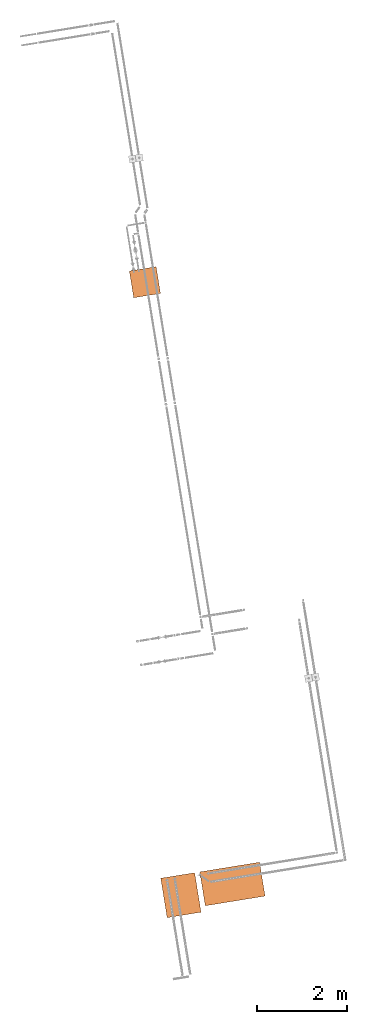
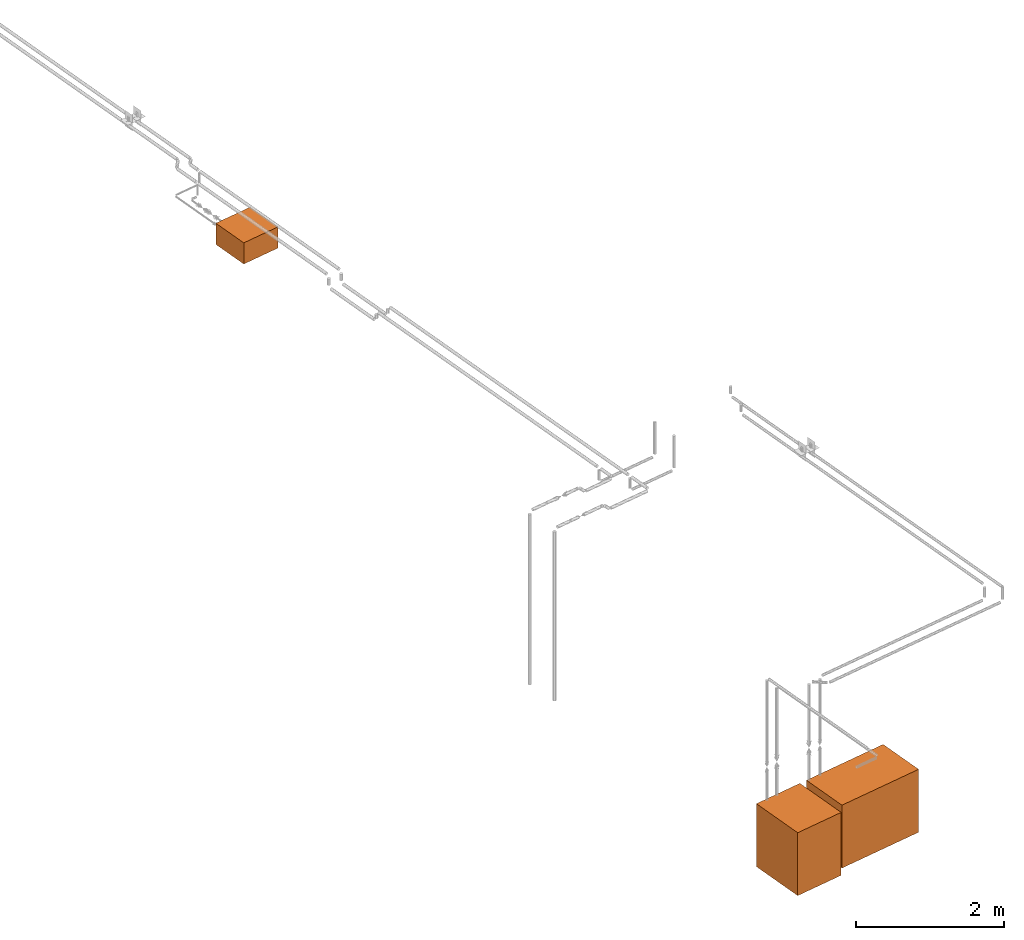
# One storey, part 10 of 10: 3 proxies.
"""IFC2X3 building model written with IfcOpenShell, lengths in millimetres."""

from ifc_helpers import new_model, entity, si_unit, converted_unit, derived_unit, direction, frame, origin, origin_with_axes, origin_2d_with_axis, place, context, subcontext, project, spatial, rectangle, extrude, source, transform, mapped, material, type_object, element, save


model = new_model("IFC2X3")

# Units and contexts
plan_context = context("Plan", 3, precision=1e-05, world=origin_with_axes())
model_context = context("Model", 3, precision=0.01, world=origin(), true_north=direction((6.12323399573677e-17, 1.0)))
body_context = subcontext(model_context, "Body", "Model", "MODEL_VIEW")
ifc_project = project(units=[converted_unit("PLANEANGLEUNIT", "DEGREE", entity("IfcPositiveLengthMeasure", 0.0174532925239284), si_unit("PLANEANGLEUNIT", "RADIAN"), dimensions=[0, 0, 0, 0, 0, 0, 0]), si_unit("AREAUNIT", "SQUARE_METRE"), si_unit("LENGTHUNIT", "METRE", prefix="MILLI"), si_unit("MASSUNIT", "GRAM", prefix="KILO"), si_unit("POWERUNIT", "WATT"), si_unit("PRESSUREUNIT", "PASCAL", prefix="KILO"), si_unit("FORCEUNIT", "NEWTON", prefix="KILO"), si_unit("ELECTRICVOLTAGEUNIT", "VOLT"), si_unit("ELECTRICCURRENTUNIT", "AMPERE"), si_unit("THERMODYNAMICTEMPERATUREUNIT", "DEGREE_CELSIUS"), si_unit("TIMEUNIT", "SECOND"), si_unit("VOLUMEUNIT", "CUBIC_METRE"), derived_unit("LINEARVELOCITYUNIT", [(si_unit("LENGTHUNIT", "METRE"), 1), (si_unit("TIMEUNIT", "SECOND"), -1)]), derived_unit("VOLUMETRICFLOWRATEUNIT", [(si_unit("VOLUMEUNIT", "CUBIC_METRE"), 1), (si_unit("TIMEUNIT", "SECOND"), -1)]), derived_unit("THERMALTRANSMITTANCEUNIT", [(si_unit("POWERUNIT", "WATT"), 1), (si_unit("THERMODYNAMICTEMPERATUREUNIT", "KELVIN"), -1), (si_unit("AREAUNIT", "SQUARE_METRE"), -1)]), derived_unit("SOUNDPRESSUREUNIT", [(si_unit("PRESSUREUNIT", "PASCAL"), 1)])], contexts=[model_context, plan_context])

# Site, building, storey
site_placement = place(None, frame((-0.00071070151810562, 0.00438415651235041, 0.0), z_axis=(0.0, 0.0, 1.0), x_axis=(-0.160236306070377, 0.987078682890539, 0.0)))
site = spatial("IfcSite", under=ifc_project, at=site_placement, Name="Default", CompositionType="ELEMENT")
building_placement = place(site_placement, origin_with_axes())
building = spatial("IfcBuilding", under=site, at=building_placement, CompositionType="ELEMENT")
storey_placement = place(building_placement, frame((0.0, 0.0, 58999.9999999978), z_axis=(0.0, 0.0, 1.0), x_axis=(1.0, 0.0, 0.0)))
storey = spatial("IfcBuildingStorey", under=building, at=storey_placement, Name="Nivå F", CompositionType="ELEMENT", Elevation=58999.9999999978)

# Proxies
ifc_material = material(Name="<Unnamed>")
building_element_proxy_type_1 = type_object("IfcBuildingElementProxyType", Name="FANCOIL--LC006T:FANCOIL--LC006T", PredefinedType="NOTDEFINED", material=ifc_material)
shared_shape_1 = source(origin(), body_context, "Body", "SweptSolid", [
    extrude(rectangle(XDim=600.0, YDim=600.0, at=origin_2d_with_axis()), frame((300.0, 300.0, 0.0), z_axis=(0.0, 0.0, 1.0), x_axis=(0.0, 1.0, 0.0)), (0.0, 0.0, 1.0), 350.0),
])
proxy_1_placement = place(storey_placement, frame((779431.619644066, -503057.480498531, 2380.0), z_axis=(0.0, 0.0, 1.0), x_axis=(1.0, 0.0, 0.0)))
element("IfcBuildingElementProxy", 1, at=proxy_1_placement, inside=storey, type_object=building_element_proxy_type_1, material=ifc_material, Name="FANCOIL--LC006T:FANCOIL--LC006T", ObjectType="FANCOIL--LC006T:FANCOIL--LC006T", context=body_context, shape_type="MappedRepresentation", body=[
    mapped(shared_shape_1, transform((0.0, 0.0, 0.0), scale=1.0)),
])
building_element_proxy_type_2 = type_object("IfcBuildingElementProxyType", Name="KJØLEAGGREGAT--IL - Starcold Aggregat:KJØLEAGGREGATMC LC4 B 050 MTIL - Starcold AggregaT", PredefinedType="NOTDEFINED", material=ifc_material)
shared_shape_2 = source(origin(), body_context, "Body", "SweptSolid", [
    extrude(rectangle(XDim=1340.0, YDim=760.0, at=origin_2d_with_axis()), frame((-670.0, 0.0, 0.0), z_axis=(0.0, 0.0, 1.0), x_axis=(-1.0, 0.0, 0.0)), (0.0, 0.0, 1.0), 1040.02183754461),
])
proxy_2_placement = place(storey_placement, frame((766277.869644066, -503204.740024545, 0.0), z_axis=(0.0, 0.0, 1.0), x_axis=(0.0, -1.0, 0.0)))
element("IfcBuildingElementProxy", 2, at=proxy_2_placement, inside=storey, type_object=building_element_proxy_type_2, material=ifc_material, Name="KJØLEAGGREGAT--IL - Starcold Aggregat:KJØLEAGGREGATMC LC4 B 050 MTIL - Starcold AggregaT", ObjectType="KJØLEAGGREGAT--IL - Starcold Aggregat:KJØLEAGGREGATMC LC4 B 050 MTIL - Starcold AggregaT", context=body_context, shape_type="MappedRepresentation", body=[
    mapped(shared_shape_2, transform((0.0, 0.0, 0.0), scale=1.0)),
])
building_element_proxy_type_3 = type_object("IfcBuildingElementProxyType", Name="KJØLEAGGREGAT--IL - Starcold Aggregat:KJØLEAGGREGATMC LC1A B 020 MTIL - Starcold AggregaT", PredefinedType="NOTDEFINED", material=ifc_material)
shared_shape_3 = source(origin(), body_context, "Body", "SweptSolid", [
    extrude(rectangle(XDim=885.0, YDim=760.0, at=origin_2d_with_axis()), frame((-442.5, 0.0, 0.0), z_axis=(0.0, 0.0, 1.0), x_axis=(-1.0, 0.0, 0.0)), (0.0, 0.0, 1.0), 1040.02183754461),
])
proxy_3_placement = place(storey_placement, frame((766657.869644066, -501369.730498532, 0.0), z_axis=(0.0, 0.0, 1.0), x_axis=(1.0, 0.0, 0.0)))
element("IfcBuildingElementProxy", 3, at=proxy_3_placement, inside=storey, type_object=building_element_proxy_type_3, material=ifc_material, Name="KJØLEAGGREGAT--IL - Starcold Aggregat:KJØLEAGGREGATMC LC1A B 020 MTIL - Starcold AggregaT", ObjectType="KJØLEAGGREGAT--IL - Starcold Aggregat:KJØLEAGGREGATMC LC1A B 020 MTIL - Starcold AggregaT", context=body_context, shape_type="MappedRepresentation", body=[
    mapped(shared_shape_3, transform((0.0, 0.0, 0.0), scale=1.0)),
])

save(model, "model.ifc")
